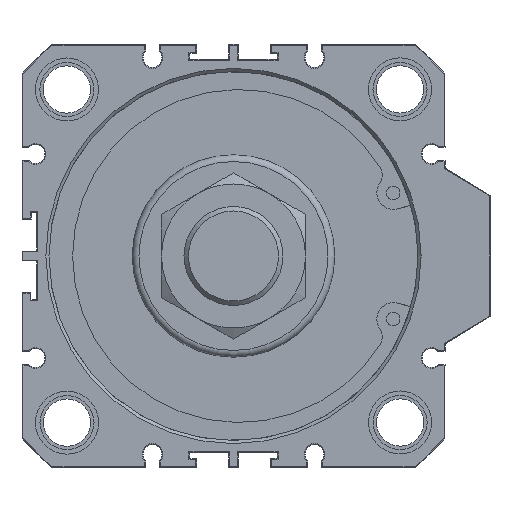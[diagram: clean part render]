
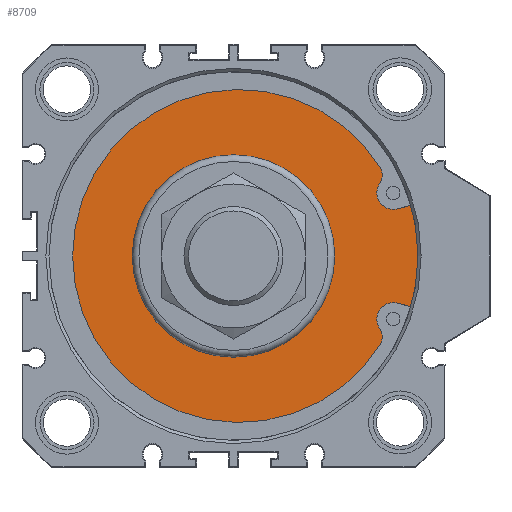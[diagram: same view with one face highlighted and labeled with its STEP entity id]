
A CAD part, front view. The second image highlights one B-rep face of the part: STEP entity #8709.
In plain terms, the highlighted planar face has unit normal (0, -1, 0).
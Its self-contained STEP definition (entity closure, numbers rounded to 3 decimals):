
#590=LINE('',#12444,#1176);
#591=LINE('',#12456,#1177);
#1176=VECTOR('',#10512,1000.);
#1177=VECTOR('',#10523,1000.);
#2052=ORIENTED_EDGE('',*,*,#3552,.T.);
#2053=ORIENTED_EDGE('',*,*,#3553,.F.);
#2054=ORIENTED_EDGE('',*,*,#3554,.T.);
#2055=ORIENTED_EDGE('',*,*,#3555,.T.);
#2056=ORIENTED_EDGE('',*,*,#3556,.T.);
#2057=ORIENTED_EDGE('',*,*,#3557,.T.);
#2058=ORIENTED_EDGE('',*,*,#3558,.T.);
#2059=ORIENTED_EDGE('',*,*,#3559,.T.);
#2060=ORIENTED_EDGE('',*,*,#3560,.T.);
#3552=EDGE_CURVE('',#4275,#4275,#4487,.T.);
#3553=EDGE_CURVE('',#4276,#4277,#4488,.T.);
#3554=EDGE_CURVE('',#4276,#4278,#590,.T.);
#3555=EDGE_CURVE('',#4278,#4279,#4489,.T.);
#3556=EDGE_CURVE('',#4279,#4280,#4490,.T.);
#3557=EDGE_CURVE('',#4280,#4281,#4491,.T.);
#3558=EDGE_CURVE('',#4281,#4282,#4492,.T.);
#3559=EDGE_CURVE('',#4282,#4283,#4493,.T.);
#3560=EDGE_CURVE('',#4283,#4277,#591,.T.);
#4275=VERTEX_POINT('',#12440);
#4276=VERTEX_POINT('',#12442);
#4277=VERTEX_POINT('',#12443);
#4278=VERTEX_POINT('',#12445);
#4279=VERTEX_POINT('',#12447);
#4280=VERTEX_POINT('',#12449);
#4281=VERTEX_POINT('',#12451);
#4282=VERTEX_POINT('',#12453);
#4283=VERTEX_POINT('',#12455);
#4487=CIRCLE('',#9255,22.5);
#4488=CIRCLE('',#9256,42.75);
#4489=CIRCLE('',#9257,3.655);
#4490=CIRCLE('',#9258,3.556);
#4491=CIRCLE('',#9259,37.);
#4492=CIRCLE('',#9260,3.556);
#4493=CIRCLE('',#9261,3.655);
#4735=EDGE_LOOP('',(#2052));
#4736=EDGE_LOOP('',(#2053,#2054,#2055,#2056,#2057,#2058,#2059,#2060));
#5213=FACE_BOUND('',#4735,.T.);
#5214=FACE_BOUND('',#4736,.T.);
#5588=PLANE('',#9254);
#8709=ADVANCED_FACE('',(#5213,#5214),#5588,.F.);
#9254=AXIS2_PLACEMENT_3D('',#12438,#10506,#10507);
#9255=AXIS2_PLACEMENT_3D('',#12439,#10508,#10509);
#9256=AXIS2_PLACEMENT_3D('',#12441,#10510,#10511);
#9257=AXIS2_PLACEMENT_3D('',#12446,#10513,#10514);
#9258=AXIS2_PLACEMENT_3D('',#12448,#10515,#10516);
#9259=AXIS2_PLACEMENT_3D('',#12450,#10517,#10518);
#9260=AXIS2_PLACEMENT_3D('',#12452,#10519,#10520);
#9261=AXIS2_PLACEMENT_3D('',#12454,#10521,#10522);
#10506=DIRECTION('',(0.,1.,0.));
#10507=DIRECTION('',(-1.,0.,0.));
#10508=DIRECTION('',(0.,1.,0.));
#10509=DIRECTION('',(-1.,0.,0.));
#10510=DIRECTION('',(0.,1.,0.));
#10511=DIRECTION('',(-1.,0.,0.));
#10512=DIRECTION('',(-0.966,0.,-0.259));
#10513=DIRECTION('',(0.,1.,0.));
#10514=DIRECTION('',(1.,0.,0.));
#10515=DIRECTION('',(0.,-1.,0.));
#10516=DIRECTION('',(-1.,0.,0.));
#10517=DIRECTION('',(0.,-1.,0.));
#10518=DIRECTION('',(1.,0.,0.));
#10519=DIRECTION('',(0.,-1.,0.));
#10520=DIRECTION('',(-1.,0.,0.));
#10521=DIRECTION('',(0.,1.,0.));
#10522=DIRECTION('',(1.,0.,0.));
#10523=DIRECTION('',(0.966,0.,-0.259));
#12438=CARTESIAN_POINT('',(0.,5.5,-3.67));
#12439=CARTESIAN_POINT('',(0.,5.5,0.));
#12440=CARTESIAN_POINT('',(-22.5,5.5,0.));
#12441=CARTESIAN_POINT('',(0.,5.5,0.));
#12442=CARTESIAN_POINT('',(41.112,5.5,11.72));
#12443=CARTESIAN_POINT('',(41.112,5.5,-11.72));
#12444=CARTESIAN_POINT('',(41.112,5.5,11.72));
#12445=CARTESIAN_POINT('',(36.445,5.5,10.469));
#12446=CARTESIAN_POINT('',(35.499,5.5,14.));
#12447=CARTESIAN_POINT('',(32.311,5.5,15.788));
#12448=CARTESIAN_POINT('',(29.497,5.5,17.962));
#12449=CARTESIAN_POINT('',(32.729,5.5,19.444));
#12450=CARTESIAN_POINT('',(1.25,5.5,0.));
#12451=CARTESIAN_POINT('',(32.729,5.5,-19.444));
#12452=CARTESIAN_POINT('',(29.497,5.5,-17.962));
#12453=CARTESIAN_POINT('',(32.311,5.5,-15.788));
#12454=CARTESIAN_POINT('',(35.499,5.5,-14.));
#12455=CARTESIAN_POINT('',(36.445,5.5,-10.469));
#12456=CARTESIAN_POINT('',(36.445,5.5,-10.469));
